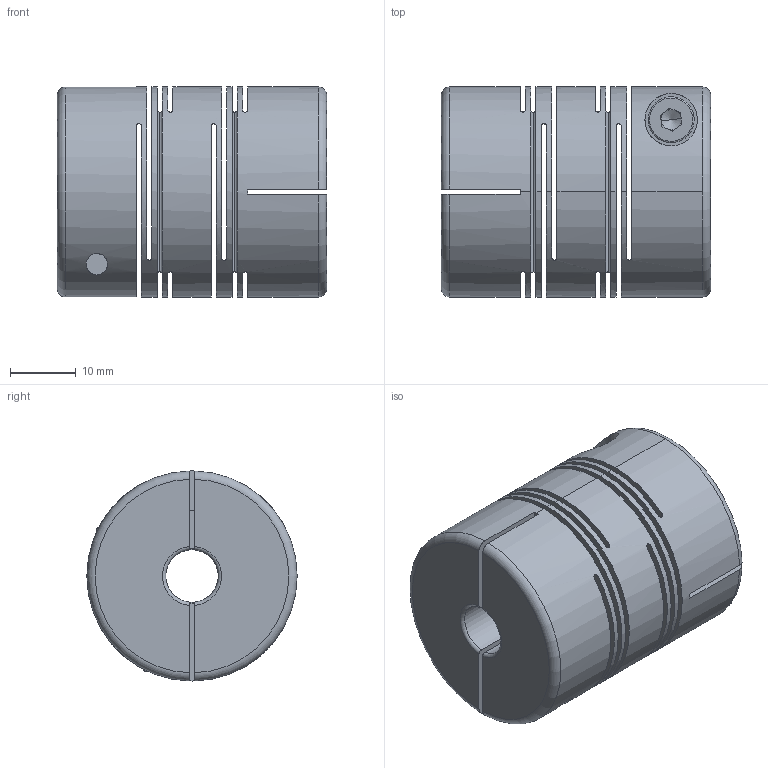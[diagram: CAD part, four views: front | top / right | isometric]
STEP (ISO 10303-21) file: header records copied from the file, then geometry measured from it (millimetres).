
FILE_DESCRIPTION (( 'STEP AP203' ), '1' );
FILE_NAME ('FSCML32-8x8.STEP', '2014-01-23T07:57:09', ( '123' ), ( '' ), 'SwSTEP 2.0', 'SolidWorks 2013', '' );
FILE_SCHEMA (( 'CONFIG_CONTROL_DESIGN' ));
Length unit declared in the file: millimetre
Products named in the file (1): FSCML32-8x8
Bounding box: 41 x 32 x 32 mm (x, y, z)
Surface area: 17895.1 mm2 (no closed solid volume)
Topology: 0 solids, 5 shells, 107 faces, 336 edges, 228 vertices
Faces by surface type: plane 49, cylinder 40, torus 14, cone 4
Entity records: 4335 total; most frequent: CARTESIAN_POINT 1267, DIRECTION 633, ORIENTED_EDGE 598, EDGE_CURVE 332, AXIS2_PLACEMENT_3D 249, VERTEX_POINT 228, CIRCLE 141, VECTOR 135
